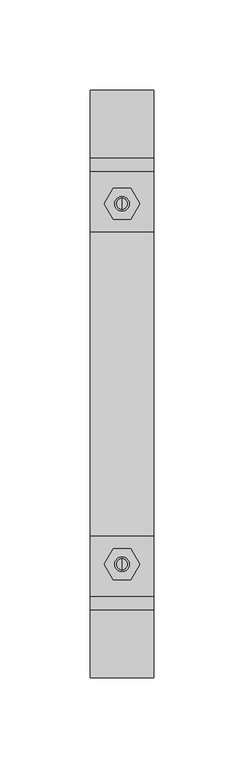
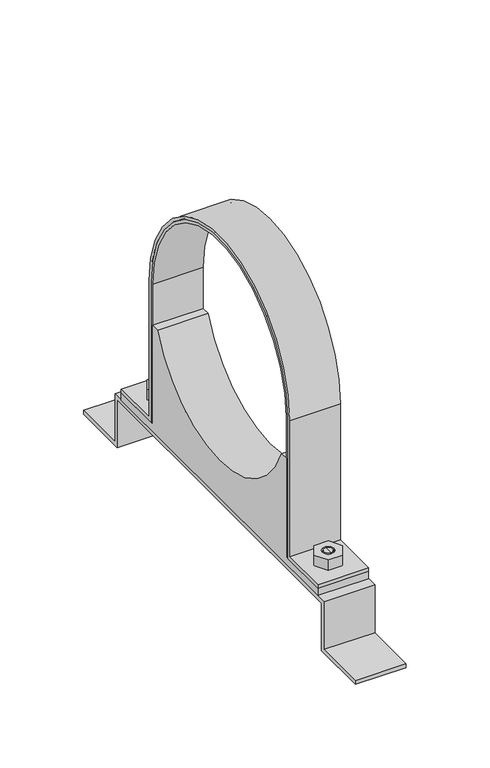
"""IFC4 building model written with IfcOpenShell, lengths in millimetres: valve geometry, Superfix DG3 Clamp : Superfix DG3 Clamp."""

from ifc_helpers import new_model, si_unit, point, frame, frame_2d, origin, place, context, project, spatial, polyline, circle_curve, trimmed, segment, composite_curve, outline, extrude, source, transform, mapped, element, save
from ifc_brep_helpers import plane_surface, cylinder_surface, advanced_brep


def valve_c56c90fc(model_context):
    return source(origin(), model_context, "Body", "SolidModel", [
        advanced_brep(
        [(0.0, 102.75, 21.75), (0.0, 96.75, 21.75), (0.0, 96.75, 34.75), (0.0, 102.75, 34.75), (0.0, 99.75, 21.75)],
        [
            (0, 1, circle_curve(frame((0.0, 99.75, 21.75), z_axis=(0.0, 0.0, 1.0), x_axis=(0.0, 1.0, 0.0)), 3.0)),
            (1, 2),
            (2, 3, circle_curve(frame((0.0, 99.75, 34.75), z_axis=(0.0, 0.0, -1.0), x_axis=(0.0, 1.0, 0.0)), 3.0)),
            (3, 0),
            (1, 0, circle_curve(frame((0.0, 99.75, 21.75), z_axis=(0.0, 0.0, 1.0), x_axis=(0.0, 1.0, 0.0)), 3.0)),
            (3, 2, circle_curve(frame((0.0, 99.75, 34.75), z_axis=(0.0, 0.0, -1.0), x_axis=(0.0, 1.0, 0.0)), 3.0)),
            (0, 4),
            (4, 1),
        ],
        [
            cylinder_surface(frame((0.0, 99.75, 143.0306094), z_axis=(0.0, 0.0, 1.0), x_axis=(0.0, 1.0, 0.0)), 3.0),
            plane_surface(frame((0.0, 99.75, 21.75), z_axis=(0.0, 0.0, -1.0), x_axis=(0.0, 1.0, 0.0))),
            plane_surface(frame((13.75, -117.5, 34.75), z_axis=(0.0, 0.0, 1.0), x_axis=(-1.0, 0.0, 0.0))),
        ],
        [
            (0, [[1, 2, 3, 4]]),
            (0, [[5, -4, 6, -2]]),
            (1, [[-1, 7, 8]]),
            (1, [[-5, -8, -7]]),
            (2, [[-3, -6]]),
        ],
    ),
        advanced_brep(
        [(0.0, 96.75, 53.5), (0.0, 102.75, 53.5), (0.0, 102.75, 42.75), (0.0, 96.75, 42.75), (0.0, 99.75, 53.5)],
        [
            (0, 1, circle_curve(frame((0.0, 99.75, 53.5), z_axis=(0.0, 0.0, -1.0), x_axis=(0.0, 1.0, 0.0)), 3.0)),
            (1, 2),
            (2, 3, circle_curve(frame((0.0, 99.75, 42.75), z_axis=(0.0, 0.0, 1.0), x_axis=(0.0, 1.0, 0.0)), 3.0)),
            (3, 0),
            (1, 0, circle_curve(frame((0.0, 99.75, 53.5), z_axis=(0.0, 0.0, -1.0), x_axis=(0.0, 1.0, 0.0)), 3.0)),
            (3, 2, circle_curve(frame((0.0, 99.75, 42.75), z_axis=(0.0, 0.0, 1.0), x_axis=(0.0, 1.0, 0.0)), 3.0)),
            (0, 4),
            (4, 1),
        ],
        [
            cylinder_surface(frame((0.0, 99.75, 143.0306094), z_axis=(0.0, 0.0, 1.0), x_axis=(0.0, 1.0, 0.0)), 3.0),
            plane_surface(frame((0.0, 99.75, 53.5), z_axis=(0.0, 0.0, 1.0), x_axis=(0.0, 1.0, 0.0))),
            plane_surface(frame((13.75, 117.5, 42.75), z_axis=(0.0, 0.0, -1.0), x_axis=(-1.0, 0.0, 0.0))),
        ],
        [
            (0, [[1, 2, 3, 4]]),
            (0, [[5, -4, 6, -2]]),
            (1, [[-1, 7, 8]]),
            (1, [[-5, -8, -7]]),
            (2, [[-3, -6]]),
        ],
    ),
        advanced_brep(
        [(0.0, -102.75, 53.5), (0.0, -96.75, 53.5), (0.0, -96.75, 42.75), (0.0, -102.75, 42.75), (0.0, -99.75, 53.5)],
        [
            (0, 1, circle_curve(frame((0.0, -99.75, 53.5), z_axis=(0.0, 0.0, -1.0), x_axis=(0.0, -1.0, 0.0)), 3.0)),
            (1, 2),
            (2, 3, circle_curve(frame((0.0, -99.75, 42.75), z_axis=(0.0, 0.0, 1.0), x_axis=(0.0, -1.0, 0.0)), 3.0)),
            (3, 0),
            (1, 0, circle_curve(frame((0.0, -99.75, 53.5), z_axis=(0.0, 0.0, -1.0), x_axis=(0.0, -1.0, 0.0)), 3.0)),
            (3, 2, circle_curve(frame((0.0, -99.75, 42.75), z_axis=(0.0, 0.0, 1.0), x_axis=(0.0, -1.0, 0.0)), 3.0)),
            (0, 4),
            (4, 1),
        ],
        [
            cylinder_surface(frame((0.0, -99.75, 143.0306094), z_axis=(0.0, 0.0, -1.0), x_axis=(0.0, -1.0, 0.0)), 3.0),
            plane_surface(frame((0.0, -99.75, 53.5), z_axis=(0.0, 0.0, 1.0), x_axis=(0.0, -1.0, 0.0))),
            plane_surface(frame((13.75, 117.5, 42.75), z_axis=(0.0, 0.0, -1.0), x_axis=(-1.0, 0.0, 0.0))),
        ],
        [
            (0, [[1, 2, 3, 4]]),
            (0, [[5, -4, 6, -2]]),
            (1, [[-1, 7, 8]]),
            (1, [[-5, -8, -7]]),
            (2, [[-3, -6]]),
        ],
    ),
        advanced_brep(
        [(0.0, -96.75, 21.75), (0.0, -102.75, 21.75), (0.0, -102.75, 34.75), (0.0, -96.75, 34.75), (0.0, -99.75, 21.75)],
        [
            (0, 1, circle_curve(frame((0.0, -99.75, 21.75), z_axis=(0.0, 0.0, 1.0), x_axis=(0.0, -1.0, 0.0)), 3.0)),
            (1, 2),
            (2, 3, circle_curve(frame((0.0, -99.75, 34.75), z_axis=(0.0, 0.0, -1.0), x_axis=(0.0, -1.0, 0.0)), 3.0)),
            (3, 0),
            (1, 0, circle_curve(frame((0.0, -99.75, 21.75), z_axis=(0.0, 0.0, 1.0), x_axis=(0.0, -1.0, 0.0)), 3.0)),
            (3, 2, circle_curve(frame((0.0, -99.75, 34.75), z_axis=(0.0, 0.0, -1.0), x_axis=(0.0, -1.0, 0.0)), 3.0)),
            (0, 4),
            (4, 1),
        ],
        [
            cylinder_surface(frame((0.0, -99.75, 143.0306094), z_axis=(0.0, 0.0, -1.0), x_axis=(0.0, -1.0, 0.0)), 3.0),
            plane_surface(frame((0.0, -99.75, 21.75), z_axis=(0.0, 0.0, -1.0), x_axis=(0.0, -1.0, 0.0))),
            plane_surface(frame((13.75, -117.5, 34.75), z_axis=(0.0, 0.0, 1.0), x_axis=(-1.0, 0.0, 0.0))),
        ],
        [
            (0, [[1, 2, 3, 4]]),
            (0, [[5, -4, 6, -2]]),
            (1, [[-1, 7, 8]]),
            (1, [[-5, -8, -7]]),
            (2, [[-3, -6]]),
        ],
    ),
        extrude(outline(composite_curve([segment(trimmed(circle_curve(frame_2d((0.0, 144.75)), 82.0), [point((82.0, 144.75))], [point((-82.0, 144.75))], True, "CARTESIAN"), True, "CONTINUOUS"), segment(polyline([(-82.0, 144.75), (-82.0, 42.75), (-117.5, 42.75), (-117.5, 45.5), (-84.0, 45.5), (-84.0, 144.75)]), True, "CONTINUOUS"), segment(trimmed(circle_curve(frame_2d((0.0, 144.75)), 84.0), [point((-84.0, 144.75))], [point((84.0, 144.75))], False, "CARTESIAN"), True, "CONTINUOUS"), segment(polyline([(84.0, 144.75), (84.0, 45.5), (117.5, 45.5), (117.5, 42.75), (82.0, 42.75), (82.0, 144.75)]), True, "CONTINUOUS")], self_intersect=False)), frame((-17.5, 0.0, 0.0), z_axis=(1.0, 0.0, 0.0), x_axis=(0.0, 1.0, 0.0)), (0.0, 0.0, 1.0), 35.0),
        extrude(outline(polyline([(9.8149546, -99.75), (4.9074773, -108.25), (-4.9074773, -108.25), (-9.8149546, -99.75), (-4.9074773, -91.25), (4.9074773, -91.25), (9.8149546, -99.75)]), holes=[composite_curve([segment(trimmed(circle_curve(frame_2d((0.0, -99.75)), 4.0), [point((4.0, -99.75))], [point((-4.0, -99.75))], True, "CARTESIAN"), True, "CONTINUOUS"), segment(trimmed(circle_curve(frame_2d((0.0, -99.75)), 4.0), [point((-4.0, -99.75))], [point((4.0, -99.75))], True, "CARTESIAN"), True, "CONTINUOUS")], self_intersect=False)]), frame((0.0, 0.0, 45.5), z_axis=(0.0, 0.0, 1.0), x_axis=(1.0, 0.0, 0.0)), (0.0, 0.0, 1.0), 8.0),
        extrude(outline(polyline([(9.8149546, 99.75), (4.9074773, 91.25), (-4.9074773, 91.25), (-9.8149546, 99.75), (-4.9074773, 108.25), (4.9074773, 108.25), (9.8149546, 99.75)]), holes=[composite_curve([segment(trimmed(circle_curve(frame_2d((0.0, 99.75)), 4.0), [point((4.0, 99.75))], [point((-4.0, 99.75))], True, "CARTESIAN"), True, "CONTINUOUS"), segment(trimmed(circle_curve(frame_2d((0.0, 99.75)), 4.0), [point((-4.0, 99.75))], [point((4.0, 99.75))], True, "CARTESIAN"), True, "CONTINUOUS")], self_intersect=False)]), frame((0.0, 0.0, 45.5), z_axis=(0.0, 0.0, 1.0), x_axis=(1.0, 0.0, 0.0)), (0.0, 0.0, 1.0), 8.0),
        extrude(outline(polyline([(9.8149546, -99.75), (4.9074773, -108.25), (-4.9074773, -108.25), (-9.8149546, -99.75), (-4.9074773, -91.25), (4.9074773, -91.25), (9.8149546, -99.75)]), holes=[composite_curve([segment(trimmed(circle_curve(frame_2d((0.0, -99.75)), 4.0), [point((4.0, -99.75))], [point((-4.0, -99.75))], True, "CARTESIAN"), True, "CONTINUOUS"), segment(trimmed(circle_curve(frame_2d((0.0, -99.75)), 4.0), [point((-4.0, -99.75))], [point((4.0, -99.75))], True, "CARTESIAN"), True, "CONTINUOUS")], self_intersect=False)]), frame((0.0, 0.0, 26.75), z_axis=(0.0, 0.0, 1.0), x_axis=(1.0, 0.0, 0.0)), (0.0, 0.0, 1.0), 8.0),
        extrude(outline(polyline([(9.8149546, 99.75), (4.9074773, 91.25), (-4.9074773, 91.25), (-9.8149546, 99.75), (-4.9074773, 108.25), (4.9074773, 108.25), (9.8149546, 99.75)]), holes=[composite_curve([segment(trimmed(circle_curve(frame_2d((0.0, 99.75)), 4.0), [point((4.0, 99.75))], [point((-4.0, 99.75))], True, "CARTESIAN"), True, "CONTINUOUS"), segment(trimmed(circle_curve(frame_2d((0.0, 99.75)), 4.0), [point((-4.0, 99.75))], [point((4.0, 99.75))], True, "CARTESIAN"), True, "CONTINUOUS")], self_intersect=False)]), frame((0.0, 0.0, 26.75), z_axis=(0.0, 0.0, 1.0), x_axis=(1.0, 0.0, 0.0)), (0.0, 0.0, 1.0), 8.0),
        extrude(outline(composite_curve([segment(polyline([(-117.5, 37.5), (-117.5, 42.75), (-80.0, 42.75), (-80.0, 114.75), (-74.1619849, 114.75)]), True, "CONTINUOUS"), segment(trimmed(circle_curve(frame_2d((0.0, 144.75)), 80.0), [point((-74.1619849, 114.75))], [point((74.1619849, 114.75))], True, "CARTESIAN"), True, "CONTINUOUS"), segment(polyline([(74.1619849, 114.75), (80.0, 114.75), (80.0, 42.75), (117.5, 42.75), (117.5, 37.5), (-117.5, 37.5)]), True, "CONTINUOUS")], self_intersect=False)), frame((-17.5, 0.0, 0.0), z_axis=(1.0, 0.0, 0.0), x_axis=(0.0, 1.0, 0.0)), (0.0, 0.0, 1.0), 35.0),
        extrude(outline(polyline([(-162.5, 2.75), (-125.0, 2.75), (-125.0, 37.5), (0.0, 37.5), (125.0, 37.5), (125.0, 2.75), (162.5, 2.75), (162.5, 0.0), (122.25, 0.0), (122.25, 34.75), (0.0, 34.75), (-122.25, 34.75), (-122.25, 0.0), (-162.5, 0.0), (-162.5, 2.75)])), frame((-17.5, 0.0, 0.0), z_axis=(1.0, 0.0, 0.0), x_axis=(0.0, 1.0, 0.0)), (0.0, 0.0, 1.0), 35.0),
        extrude(outline(composite_curve([segment(trimmed(circle_curve(frame_2d((0.0, 144.75)), 80.0), [point((80.0, 144.75))], [point((-80.0, 144.75))], True, "CARTESIAN"), True, "CONTINUOUS"), segment(polyline([(-80.0, 144.75), (-80.0, 42.75), (-82.0, 42.75), (-82.0, 144.75)]), True, "CONTINUOUS"), segment(trimmed(circle_curve(frame_2d((0.0, 144.75)), 82.0), [point((-82.0, 144.75))], [point((82.0, 144.75))], False, "CARTESIAN"), True, "CONTINUOUS"), segment(polyline([(82.0, 144.75), (82.0, 42.75), (80.0, 42.75), (80.0, 144.75)]), True, "CONTINUOUS")], self_intersect=False)), frame((-17.5, 0.0, 0.0), z_axis=(1.0, 0.0, 0.0), x_axis=(0.0, 1.0, 0.0)), (0.0, 0.0, 1.0), 35.0),
    ])


if __name__ == "__main__":
    model = new_model("IFC4")
    model_context = context("Model", 3, world=origin())
    ifc_project = project(units=[si_unit("LENGTHUNIT", "METRE", prefix="MILLI")], contexts=[model_context])
    site = spatial("IfcSite", under=ifc_project)
    building = spatial("IfcBuilding", under=site)
    placement = place(None, origin())
    valve_shape = valve_c56c90fc(model_context)
    element("IfcValve", 1, ObjectType="Superfix DG3 Clamp : Superfix DG3 Clamp", at=placement, inside=building, context=model_context, shape_type="MappedRepresentation", body=[
        mapped(valve_shape, transform((0.0, 0.0, 0.0), x_axis=(1.0, 0.0, 0.0), y_axis=(0.0, 1.0, 0.0), z_axis=(0.0, 0.0, 1.0))),
    ])
    save(model, "model.ifc")
